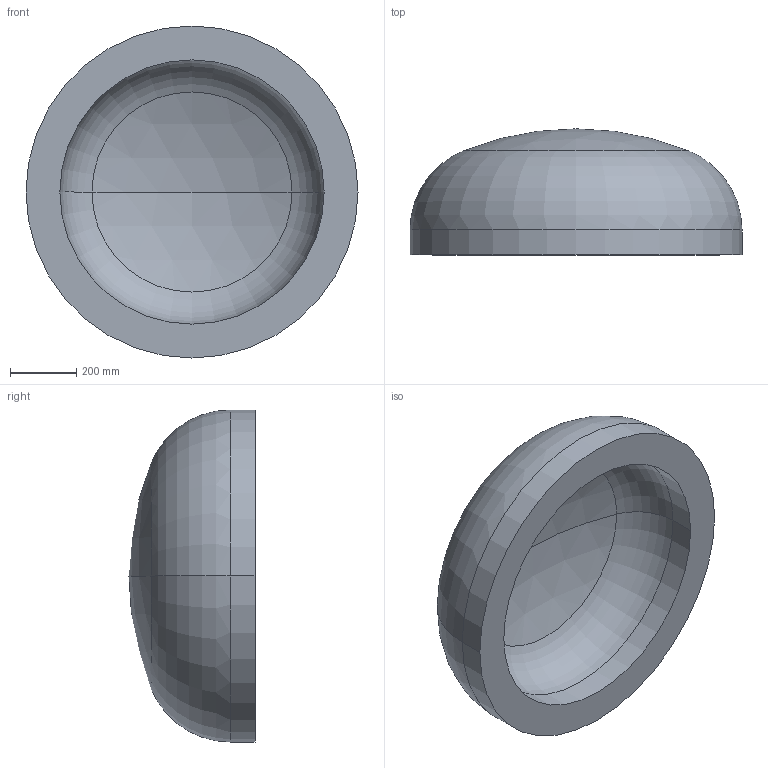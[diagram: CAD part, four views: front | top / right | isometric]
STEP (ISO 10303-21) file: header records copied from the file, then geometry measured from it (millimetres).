
FILE_DESCRIPTION (( 'STEP AP203' ), '1' );
FILE_NAME ('DIN 28013 Korbbogenform_-_Boden DIN 28013 - 1000 x 75 - I - s=102.step', '2016-07-01T08:56:46', ( '' ), ( '' ), 'SwSTEP 2.0', 'SolidWorks 2013', '' );
FILE_SCHEMA (( 'CONFIG_CONTROL_DESIGN' ));
Length unit declared in the file: millimetre
Products named in the file (1): DIN 28013 Korbbogenform_-_Boden DIN 28013 - 1000 x 75 - I - s=102
Bounding box: 1000 x 379.53 x 1000 mm (x, y, z)
Volume: 119529389.7 mm3; surface area: 2653260.6 mm2
Topology: 1 solids, 1 shells, 13 faces, 24 edges, 14 vertices
Faces by surface type: torus 4, cylinder 4, sphere 4, plane 1
Entity records: 407 total; most frequent: DIRECTION 72, CARTESIAN_POINT 52, ORIENTED_EDGE 48, AXIS2_PLACEMENT_3D 34, EDGE_CURVE 24, CIRCLE 20, VERTEX_POINT 14, EDGE_LOOP 14
